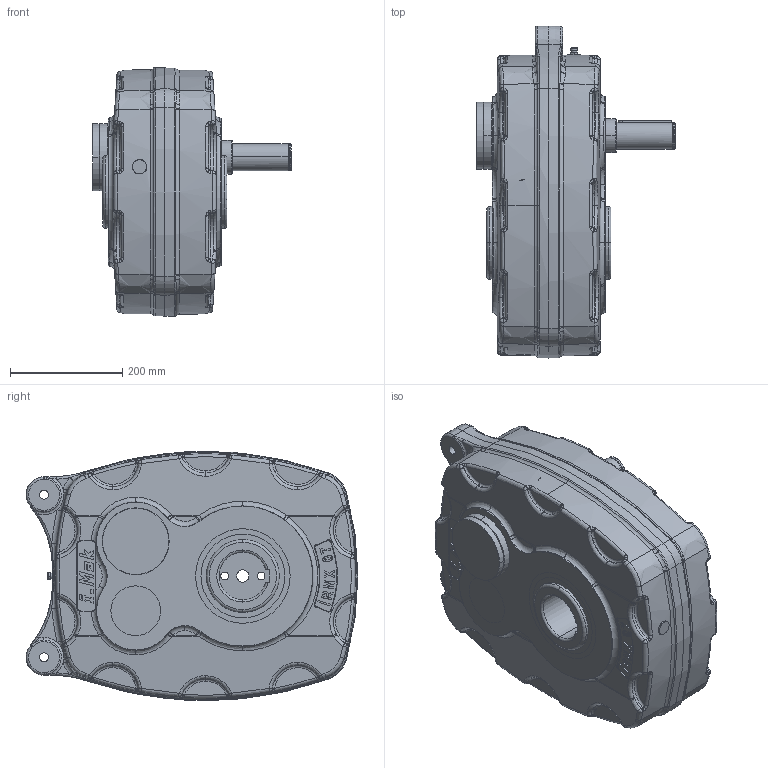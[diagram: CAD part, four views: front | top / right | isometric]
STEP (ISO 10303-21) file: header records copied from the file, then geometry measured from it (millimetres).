
FILE_DESCRIPTION (( 'STEP AP203' ), '1' );
FILE_NAME ('IRNX 07.step', '2025-07-18T13:16:57', ( '' ), ( '' ), 'SwSTEP 2.0', 'SolidWorks 2024', '' );
FILE_SCHEMA (( 'CONFIG_CONTROL_DESIGN' ));
Length unit declared in the file: millimetre
Products named in the file (1): IRNX 07
Bounding box: 355 x 592.49 x 444.4 mm (x, y, z)
Volume: 38914803.8 mm3; surface area: 853767.5 mm2
Topology: 1 solids, 1 shells, 1176 faces, 2843 edges, 1708 vertices
Faces by surface type: bspline 442, plane 341, torus 175, cone 125, cylinder 85, sphere 8
Entity records: 57334 total; most frequent: CARTESIAN_POINT 32832, ORIENTED_EDGE 5654, DIRECTION 4412, EDGE_CURVE 2827, AXIS2_PLACEMENT_3D 1769, VERTEX_POINT 1708, EDGE_LOOP 1241, ADVANCED_FACE 1176
